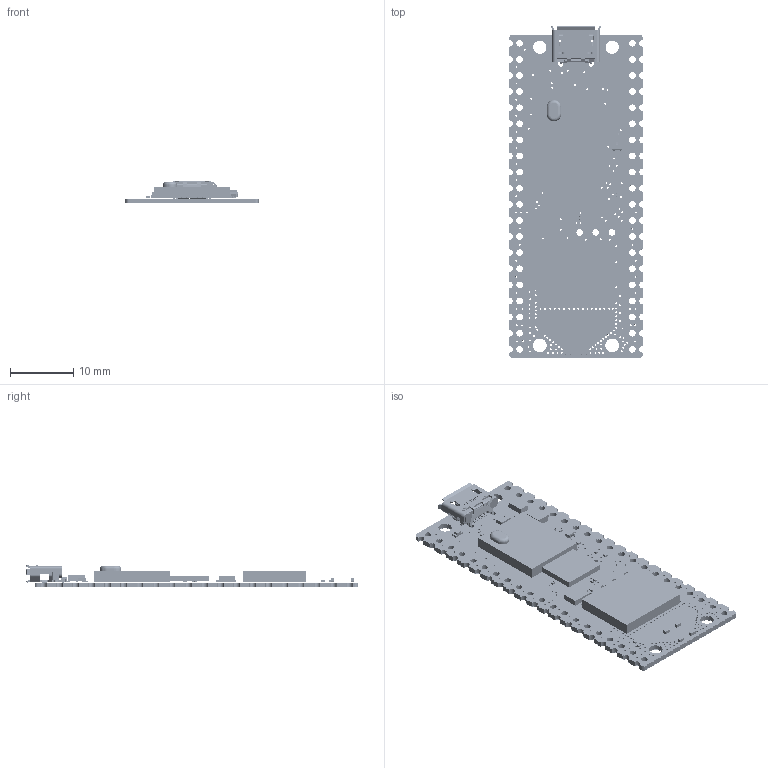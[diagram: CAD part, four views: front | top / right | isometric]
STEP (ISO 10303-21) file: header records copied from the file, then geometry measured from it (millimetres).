
FILE_DESCRIPTION(('STEP AP214'),'1');
FILE_NAME('PicoW.stp','2022-06-16T13:05:02',(' '),(' '),'Spatial InterOp 3D',' ',' ');
FILE_SCHEMA(('AUTOMOTIVE_DESIGN { 1 0 10303 214 1 1 1 1 }'));
Length unit declared in the file: millimetre
Products named in the file (82): Shapes; Dielectric; rpi-picow-r3-2.brd; Symbols; AVAGO_QSM; BOURNS_SRN2512; CAPC0603; CAPC1005; CAPC1005X55N; CAPC1608X90N; CAPC2012; FCI_10103594-0001LF; M0603_PICO; RESC0603; RESC1005; RESC1608; RF0603; RF_SHIELD_PICOW; RPI_RP2040; RT-WDFN-14AL; SOD123FL; SONY0603; SOT50P160X90-3N; TONEPARTS_TP-1221U-K9K5325; USON_2X3MM; XTAL320X250X100
Assembly tree (81 placements, depth 3):
  rpi-picow-r3-2.brd
    Shapes
      Dielectric
      Dielectric
      Dielectric
    Symbols
      AVAGO_QSM
      BOURNS_SRN2512
      CAPC0603
      CAPC0603
      CAPC0603
      CAPC0603
      CAPC1005
      CAPC1005
      CAPC1005
      CAPC1005
      CAPC1005
      CAPC1005
      CAPC1005
      CAPC1005
      CAPC1005
      CAPC1005
      CAPC1005X55N
      CAPC1005X55N
      CAPC1005X55N
      CAPC1608X90N
      CAPC1608X90N
      CAPC2012
      CAPC2012
      CAPC2012
      FCI_10103594-0001LF
      M0603_PICO
      M0603_PICO
      M0603_PICO
      M0603_PICO
      M0603_PICO
      M0603_PICO
      M0603_PICO
      M0603_PICO
      M0603_PICO
      M0603_PICO
      M0603_PICO
      M0603_PICO
      M0603_PICO
      M0603_PICO
      M0603_PICO
      M0603_PICO
      M0603_PICO
      RESC0603
      RESC0603
      RESC0603
      RESC0603
      RESC1005
      RESC1608
      RF0603
      RF0603
      RF0603
      RF0603
      RF0603
      RF_SHIELD_PICOW
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Bounding box: 21 x 52.35 x 3.6 mm (x, y, z)
Volume: 1344.6 mm3; surface area: 7738 mm2
Topology: 111 solids, 111 shells, 7079 faces, 18870 edges, 11681 vertices
Faces by surface type: cylinder 3777, plane 2517, sphere 504, bspline 273, torus 6, cone 2
Entity records: 264209 total; most frequent: CARTESIAN_POINT 52232, DIRECTION 39129, ORIENTED_EDGE 36724, EDGE_CURVE 18362, AXIS2_PLACEMENT_3D 14434, VERTEX_POINT 11681, LINE 10261, VECTOR 10261
